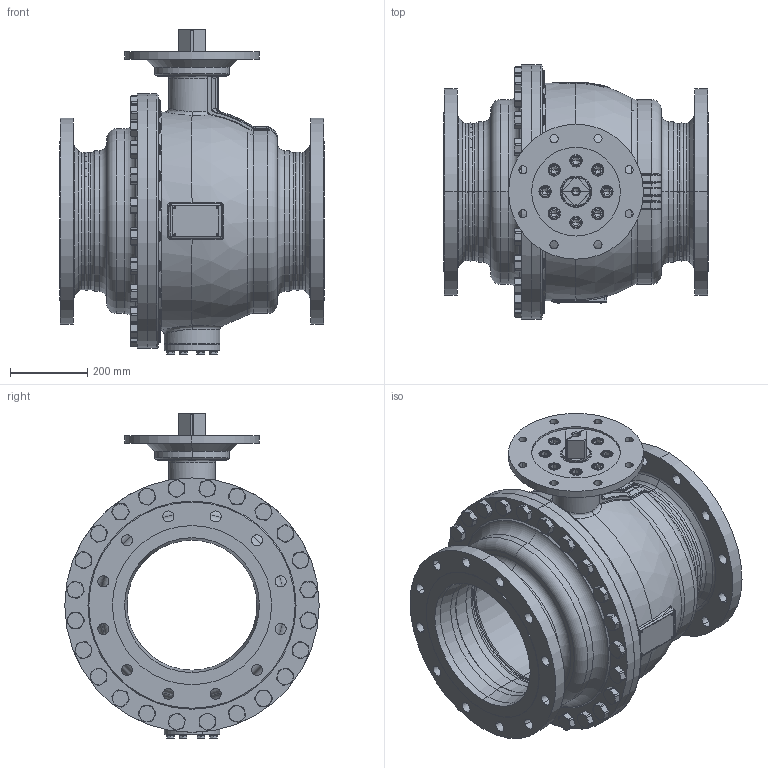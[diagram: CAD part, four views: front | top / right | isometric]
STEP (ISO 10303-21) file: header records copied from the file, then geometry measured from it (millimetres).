
FILE_DESCRIPTION((''),'2;1');
FILE_NAME('KHI-F_350_CL150-F30-4_SW0001','2026-02-05T15:57:46',('fischerkl'),('KLINGER'),'CREO PARAMETRIC BY PTC INC, 2023014','CREO PARAMETRIC BY PTC INC, 2023014','');
FILE_SCHEMA(('CONFIG_CONTROL_DESIGN'));
Products named in the file (1): KHI-F_350_CL150-F30-4_SW0001
Bounding box: 686 x 660 x 842.8 mm (x, y, z)
Volume: 44890862.4 mm3; surface area: 6017260.7 mm2
Topology: 1 solids, 4 shells, 3397 faces, 8555 edges, 5334 vertices
Faces by surface type: plane 1734, cylinder 781, cone 454, torus 299, bspline 99, sphere 30
Entity records: 143071 total; most frequent: CARTESIAN_POINT 62249, ORIENTED_EDGE 17058, DIRECTION 16753, EDGE_CURVE 8529, AXIS2_PLACEMENT_3D 6387, VERTEX_POINT 5334, VECTOR 3979, LINE 3979
